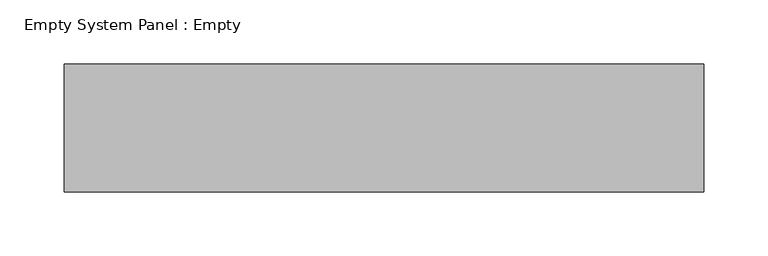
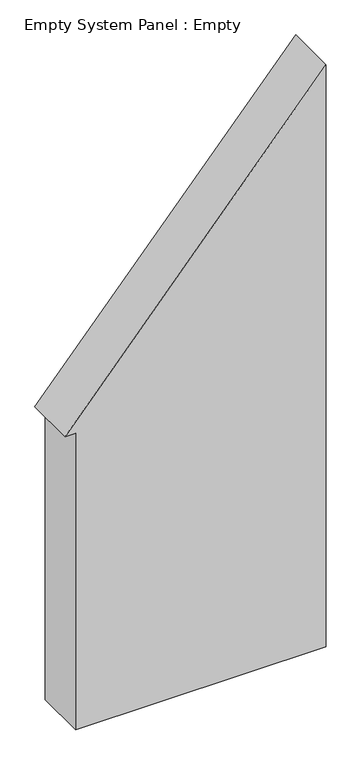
"""IFC4 building model written with IfcOpenShell, lengths in millimetres: plate geometry, Empty System Panel : Empty."""

from ifc_helpers import new_model, si_unit, frame, origin, place, context, project, spatial, polyline, outline, extrude, source, transform, mapped, element, save


def empty_system_panel_empty_3d18a949(model_context):
    return source(origin(), model_context, "Body", "SweptSolid", [
        extrude(outline(polyline([(0.0, -229.7473037), (0.0, 249.7473037), (1176.3920464, 249.7473037), (599.7407191, -249.7473037), (599.7407191, -229.7473037), (0.0, -229.7473037)])), frame((0.0, -50.0, 0.0), z_axis=(0.0, 1.0, 0.0), x_axis=(0.0, 0.0, 1.0)), (0.0, 0.0, 1.0), 100.0),
    ])


if __name__ == "__main__":
    model = new_model("IFC4")
    model_context = context("Model", 3, world=origin())
    ifc_project = project(units=[si_unit("LENGTHUNIT", "METRE", prefix="MILLI")], contexts=[model_context])
    site = spatial("IfcSite", under=ifc_project)
    building = spatial("IfcBuilding", under=site)
    placement = place(None, origin())
    empty_system_panel_empty_shape = empty_system_panel_empty_3d18a949(model_context)
    element("IfcPlate", 1, ObjectType="Empty System Panel : Empty", at=placement, inside=building, context=model_context, shape_type="MappedRepresentation", body=[
        mapped(empty_system_panel_empty_shape, transform((0.0, 0.0, 0.0), x_axis=(1.0, 0.0, 0.0), y_axis=(0.0, 1.0, 0.0), z_axis=(0.0, 0.0, 1.0))),
    ])
    save(model, "model.ifc")
